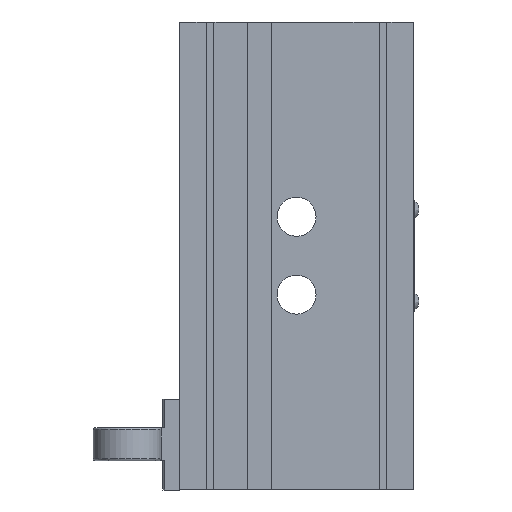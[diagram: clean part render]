
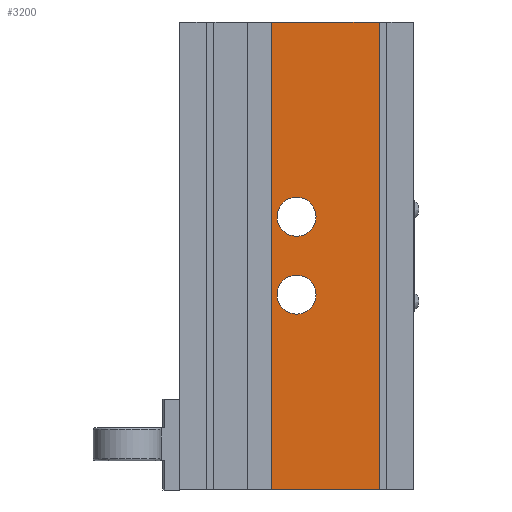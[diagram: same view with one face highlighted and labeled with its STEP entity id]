
A CAD part, front view. The second image highlights one B-rep face of the part: STEP entity #3200.
In plain terms, the highlighted planar face has unit normal (0, -1, 0).
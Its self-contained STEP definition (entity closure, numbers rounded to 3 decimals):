
#100 = AXIS2_PLACEMENT_3D ( 'NONE', #5948, #541, #1569 ) ;
#197 = DIRECTION ( 'NONE',  ( 0., -1., 0. ) ) ;
#245 = ORIENTED_EDGE ( 'NONE', *, *, #1134, .F. ) ;
#481 = LINE ( 'NONE', #6891, #658 ) ;
#541 = DIRECTION ( 'NONE',  ( 0., 1., 0. ) ) ;
#658 = VECTOR ( 'NONE', #805, 1000. ) ;
#661 = DIRECTION ( 'NONE',  ( 0., 0., 1. ) ) ;
#676 = EDGE_CURVE ( 'NONE', #1355, #4875, #481, .T. ) ;
#805 = DIRECTION ( 'NONE',  ( -1., 0., 0. ) ) ;
#880 = EDGE_LOOP ( 'NONE', ( #1381, #245, #3343, #3641 ) ) ;
#997 = PLANE ( 'NONE',  #100 ) ;
#1045 = EDGE_CURVE ( 'NONE', #3618, #4507, #2760, .T. ) ;
#1134 = EDGE_CURVE ( 'NONE', #4875, #4507, #2415, .T. ) ;
#1242 = AXIS2_PLACEMENT_3D ( 'NONE', #6391, #4308, #4157 ) ;
#1249 = CARTESIAN_POINT ( 'NONE',  ( 0., 9.819, 95.25 ) ) ;
#1334 = CARTESIAN_POINT ( 'NONE',  ( -8.128, 9.819, 0. ) ) ;
#1355 = VERTEX_POINT ( 'NONE', #3653 ) ;
#1381 = ORIENTED_EDGE ( 'NONE', *, *, #1045, .T. ) ;
#1390 = DIRECTION ( 'NONE',  ( 0., 0., 1. ) ) ;
#1438 = CIRCLE ( 'NONE', #2091, 6.35 ) ;
#1513 = FACE_BOUND ( 'NONE', #4451, .T. ) ;
#1569 = DIRECTION ( 'NONE',  ( 0., 0., 1. ) ) ;
#1638 = CARTESIAN_POINT ( 'NONE',  ( 0., 9.819, 88.9 ) ) ;
#1734 = EDGE_CURVE ( 'NONE', #4489, #3397, #4820, .T. ) ;
#1780 = LINE ( 'NONE', #2834, #2909 ) ;
#1795 = CIRCLE ( 'NONE', #5925, 6.35 ) ;
#1938 = CARTESIAN_POINT ( 'NONE',  ( 0., 9.819, 69.85 ) ) ;
#1977 = ORIENTED_EDGE ( 'NONE', *, *, #1734, .F. ) ;
#2091 = AXIS2_PLACEMENT_3D ( 'NONE', #6553, #3846, #3293 ) ;
#2199 = EDGE_LOOP ( 'NONE', ( #3412, #3126 ) ) ;
#2415 = LINE ( 'NONE', #6176, #5012 ) ;
#2588 = EDGE_CURVE ( 'NONE', #3461, #6004, #1438, .T. ) ;
#2595 = CARTESIAN_POINT ( 'NONE',  ( 26.924, 9.819, 152.4 ) ) ;
#2746 = DIRECTION ( 'NONE',  ( 0., -1., 0. ) ) ;
#2760 = LINE ( 'NONE', #7143, #2941 ) ;
#2834 = CARTESIAN_POINT ( 'NONE',  ( 26.924, 9.819, 152.4 ) ) ;
#2909 = VECTOR ( 'NONE', #4173, 1000. ) ;
#2941 = VECTOR ( 'NONE', #3859, 1000. ) ;
#2976 = CARTESIAN_POINT ( 'NONE',  ( 0., 9.819, 82.55 ) ) ;
#3013 = EDGE_CURVE ( 'NONE', #3618, #1355, #1780, .T. ) ;
#3126 = ORIENTED_EDGE ( 'NONE', *, *, #4206, .F. ) ;
#3200 = ADVANCED_FACE ( 'NONE', ( #1513, #4355, #4272 ), #997, .F. ) ;
#3293 = DIRECTION ( 'NONE',  ( 0., 0., 1. ) ) ;
#3343 = ORIENTED_EDGE ( 'NONE', *, *, #676, .F. ) ;
#3397 = VERTEX_POINT ( 'NONE', #3766 ) ;
#3412 = ORIENTED_EDGE ( 'NONE', *, *, #2588, .F. ) ;
#3461 = VERTEX_POINT ( 'NONE', #1249 ) ;
#3618 = VERTEX_POINT ( 'NONE', #2595 ) ;
#3641 = ORIENTED_EDGE ( 'NONE', *, *, #3013, .F. ) ;
#3653 = CARTESIAN_POINT ( 'NONE',  ( 26.924, 9.819, 0. ) ) ;
#3766 = CARTESIAN_POINT ( 'NONE',  ( 0., 9.819, 57.15 ) ) ;
#3846 = DIRECTION ( 'NONE',  ( 0., -1., 0. ) ) ;
#3859 = DIRECTION ( 'NONE',  ( -1., 0., 0. ) ) ;
#4086 = CARTESIAN_POINT ( 'NONE',  ( 0., 9.819, 63.5 ) ) ;
#4157 = DIRECTION ( 'NONE',  ( 0., 0., 1. ) ) ;
#4173 = DIRECTION ( 'NONE',  ( 0., 0., -1. ) ) ;
#4206 = EDGE_CURVE ( 'NONE', #6004, #3461, #5188, .T. ) ;
#4272 = FACE_OUTER_BOUND ( 'NONE', #880, .T. ) ;
#4308 = DIRECTION ( 'NONE',  ( 0., -1., 0. ) ) ;
#4355 = FACE_BOUND ( 'NONE', #2199, .T. ) ;
#4451 = EDGE_LOOP ( 'NONE', ( #1977, #6239 ) ) ;
#4460 = EDGE_CURVE ( 'NONE', #3397, #4489, #1795, .T. ) ;
#4489 = VERTEX_POINT ( 'NONE', #1938 ) ;
#4507 = VERTEX_POINT ( 'NONE', #4646 ) ;
#4646 = CARTESIAN_POINT ( 'NONE',  ( -8.128, 9.819, 152.4 ) ) ;
#4820 = CIRCLE ( 'NONE', #1242, 6.35 ) ;
#4875 = VERTEX_POINT ( 'NONE', #1334 ) ;
#5012 = VECTOR ( 'NONE', #661, 1000. ) ;
#5188 = CIRCLE ( 'NONE', #6858, 6.35 ) ;
#5925 = AXIS2_PLACEMENT_3D ( 'NONE', #4086, #197, #1390 ) ;
#5936 = DIRECTION ( 'NONE',  ( 0., 0., 1. ) ) ;
#5948 = CARTESIAN_POINT ( 'NONE',  ( -38.1, 9.819, -0.2 ) ) ;
#6004 = VERTEX_POINT ( 'NONE', #2976 ) ;
#6176 = CARTESIAN_POINT ( 'NONE',  ( -8.128, 9.819, 152.4 ) ) ;
#6239 = ORIENTED_EDGE ( 'NONE', *, *, #4460, .F. ) ;
#6391 = CARTESIAN_POINT ( 'NONE',  ( 0., 9.819, 63.5 ) ) ;
#6553 = CARTESIAN_POINT ( 'NONE',  ( 0., 9.819, 88.9 ) ) ;
#6858 = AXIS2_PLACEMENT_3D ( 'NONE', #1638, #2746, #5936 ) ;
#6891 = CARTESIAN_POINT ( 'NONE',  ( -38.1, 9.819, 0. ) ) ;
#7143 = CARTESIAN_POINT ( 'NONE',  ( -38.1, 9.819, 152.4 ) ) ;
